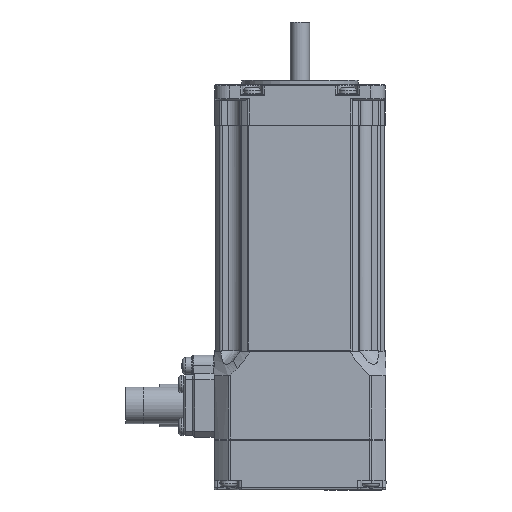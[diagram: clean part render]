
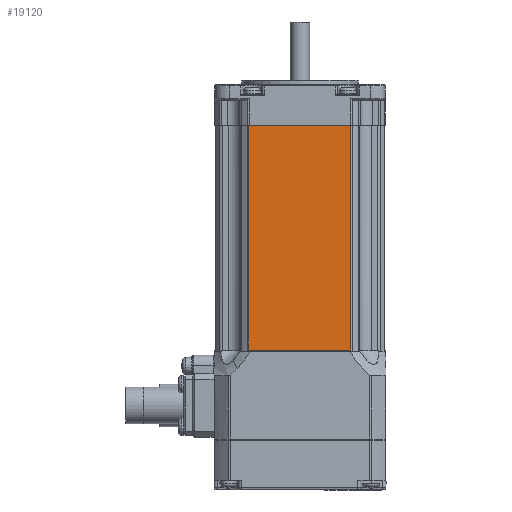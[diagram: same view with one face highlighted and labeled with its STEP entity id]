
A CAD part, left-side view. The second image highlights one B-rep face of the part: STEP entity #19120.
In plain terms, the highlighted planar face has unit normal (-1, 0, 0).
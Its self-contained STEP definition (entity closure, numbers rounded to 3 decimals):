
#356=B_SPLINE_CURVE_WITH_KNOTS('',3,(#31706,#31707,#31708,#31709,#31710,
#31711),.UNSPECIFIED.,.F.,.F.,(4,2,4),(-0.01,-0.005,
0.),.UNSPECIFIED.);
#363=B_SPLINE_CURVE_WITH_KNOTS('',3,(#31812,#31813,#31814,#31815,#31816,
#31817),.UNSPECIFIED.,.F.,.F.,(4,2,4),(-0.012,-0.006,
0.),.UNSPECIFIED.);
#993=PLANE('',#21094);
#1944=FACE_OUTER_BOUND('',#3034,.T.);
#3034=EDGE_LOOP('',(#15800,#15801,#15802,#15803,#15804,#15805));
#4155=LINE('',#32601,#5557);
#4156=LINE('',#32605,#5558);
#4504=LINE('',#35420,#5906);
#4505=LINE('',#35421,#5907);
#5557=VECTOR('',#25141,1000.);
#5558=VECTOR('',#25146,1000.);
#5906=VECTOR('',#26208,1000.);
#5907=VECTOR('',#26209,1000.);
#8188=VERTEX_POINT('',#31704);
#8189=VERTEX_POINT('',#31705);
#8201=VERTEX_POINT('',#31809);
#8202=VERTEX_POINT('',#31811);
#8301=VERTEX_POINT('',#32600);
#8302=VERTEX_POINT('',#32604);
#10525=EDGE_CURVE('',#8188,#8189,#356,.T.);
#10540=EDGE_CURVE('',#8202,#8201,#363,.T.);
#10649=EDGE_CURVE('',#8301,#8202,#4155,.T.);
#10651=EDGE_CURVE('',#8189,#8302,#4156,.T.);
#11211=EDGE_CURVE('',#8188,#8201,#4504,.T.);
#11212=EDGE_CURVE('',#8302,#8301,#4505,.T.);
#15800=ORIENTED_EDGE('',*,*,#11211,.F.);
#15801=ORIENTED_EDGE('',*,*,#10525,.T.);
#15802=ORIENTED_EDGE('',*,*,#10651,.T.);
#15803=ORIENTED_EDGE('',*,*,#11212,.T.);
#15804=ORIENTED_EDGE('',*,*,#10649,.T.);
#15805=ORIENTED_EDGE('',*,*,#10540,.T.);
#19120=ADVANCED_FACE('',(#1944),#993,.F.);
#21094=AXIS2_PLACEMENT_3D('',#35419,#26206,#26207);
#25141=DIRECTION('',(0.,0.,-1.));
#25146=DIRECTION('',(0.,0.,1.));
#26206=DIRECTION('center_axis',(1.,0.,0.));
#26207=DIRECTION('ref_axis',(0.,0.,
-1.));
#26208=DIRECTION('',(0.,1.,0.));
#26209=DIRECTION('',(0.,1.,0.));
#31704=CARTESIAN_POINT('',(-35.486,-7.406,-33.133));
#31705=CARTESIAN_POINT('',(-35.486,-7.498,-33.18));
#31706=CARTESIAN_POINT('Ctrl Pts',(-35.486,-7.406,
-33.133));
#31707=CARTESIAN_POINT('Ctrl Pts',(-35.486,-7.421,
-33.141));
#31708=CARTESIAN_POINT('Ctrl Pts',(-35.486,-7.437,
-33.149));
#31709=CARTESIAN_POINT('Ctrl Pts',(-35.486,-7.468,
-33.164));
#31710=CARTESIAN_POINT('Ctrl Pts',(-35.486,-7.483,
-33.172));
#31711=CARTESIAN_POINT('Ctrl Pts',(-35.486,-7.498,
-33.18));
#31809=CARTESIAN_POINT('',(-35.486,25.825,-33.133));
#31811=CARTESIAN_POINT('',(-35.486,25.93,-33.187));
#31812=CARTESIAN_POINT('Ctrl Pts',(-35.486,25.93,-33.187));
#31813=CARTESIAN_POINT('Ctrl Pts',(-35.486,25.912,-33.178));
#31814=CARTESIAN_POINT('Ctrl Pts',(-35.486,25.895,-33.169));
#31815=CARTESIAN_POINT('Ctrl Pts',(-35.486,25.86,-33.151));
#31816=CARTESIAN_POINT('Ctrl Pts',(-35.486,25.843,-33.142));
#31817=CARTESIAN_POINT('Ctrl Pts',(-35.486,25.825,-33.133));
#32600=CARTESIAN_POINT('',(-35.486,25.93,40.767));
#32601=CARTESIAN_POINT('',(-35.486,25.93,-33.133));
#32604=CARTESIAN_POINT('',(-35.486,-7.498,40.767));
#32605=CARTESIAN_POINT('',(-35.486,-7.498,-33.133));
#35419=CARTESIAN_POINT('Origin',(-35.486,-7.783,-33.133));
#35420=CARTESIAN_POINT('',(-35.486,-7.783,-33.133));
#35421=CARTESIAN_POINT('',(-35.486,-7.783,40.767));
